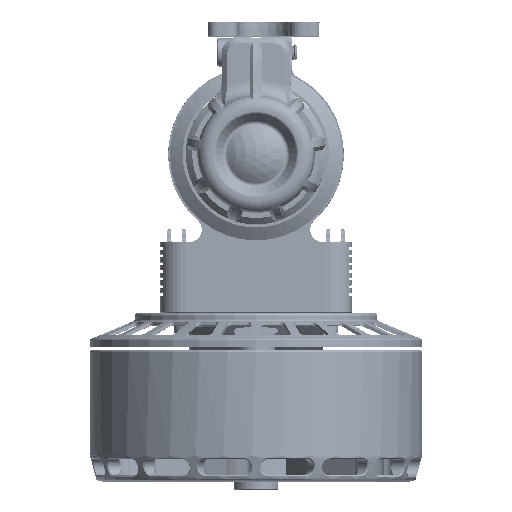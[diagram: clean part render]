
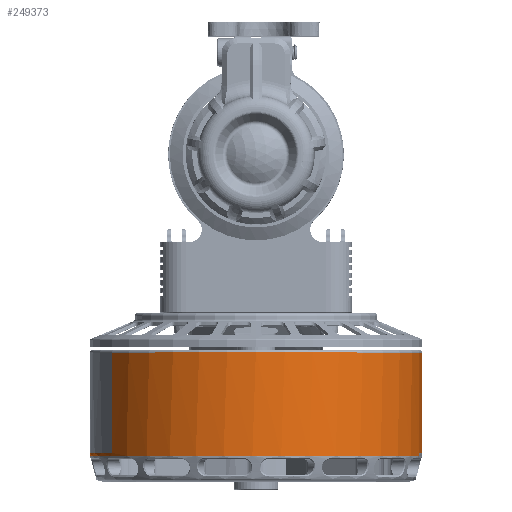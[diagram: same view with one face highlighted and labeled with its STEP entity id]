
A CAD part, top view. The second image highlights one B-rep face of the part: STEP entity #249373.
In plain terms, the highlighted cylindrical face has radius 52 mm (diameter 104 mm), a partial arc.
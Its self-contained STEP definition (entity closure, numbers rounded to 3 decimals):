
#82107=CARTESIAN_POINT('',(0.,-67.,83.6));
#82108=DIRECTION('',(0.,-1.,0.));
#82109=DIRECTION('',(0.981,0.,0.195));
#82110=AXIS2_PLACEMENT_3D('',#82107,#82108,#82109);
#96565=DIRECTION('',(0.,-1.,0.));
#96566=VECTOR('',#96565,1.);
#96567=CARTESIAN_POINT('',(-51.001,-66.,73.455));
#96568=LINE('',#96567,#96566);
#96569=CARTESIAN_POINT('',(0.,-66.,83.6));
#96570=DIRECTION('',(0.,1.,0.));
#96571=DIRECTION('',(-0.981,0.,
-0.195));
#96572=AXIS2_PLACEMENT_3D('',#96569,#96570,#96571);
#96574=DIRECTION('',(0.,1.,0.));
#96575=VECTOR('',#96574,31.4);
#96576=CARTESIAN_POINT('',(45.064,-66.,57.653));
#96577=LINE('',#96576,#96575);
#98775=DIRECTION('',(0.,-1.,0.));
#98776=VECTOR('',#98775,1.);
#98777=CARTESIAN_POINT('',(51.001,-66.,93.745));
#98778=LINE('',#98777,#98776);
#98779=CARTESIAN_POINT('',(0.,-66.,83.6));
#98780=DIRECTION('',(0.,-1.,0.));
#98781=DIRECTION('',(0.867,0.,-0.499));
#98782=AXIS2_PLACEMENT_3D('',#98779,#98780,#98781);
#98784=DIRECTION('',(0.,1.,0.));
#98785=VECTOR('',#98784,31.4);
#98786=CARTESIAN_POINT('',(-45.064,-66.,109.547));
#98787=LINE('',#98786,#98785);
#98803=CARTESIAN_POINT('',(0.,-34.6,83.6));
#98804=DIRECTION('',(0.,1.,0.));
#98805=DIRECTION('',(-0.867,0.,0.499));
#98806=AXIS2_PLACEMENT_3D('',#98803,#98804,#98805);
#116115=CARTESIAN_POINT('',(45.064,-34.6,57.653));
#116117=VERTEX_POINT('',#116115);
#116152=CARTESIAN_POINT('',(-45.064,-34.6,109.547));
#116153=VERTEX_POINT('',#116152);
#116230=CARTESIAN_POINT('',(51.001,-67.,93.745));
#116232=VERTEX_POINT('',#116230);
#116844=CARTESIAN_POINT('',(-51.001,-67.,73.455));
#116845=VERTEX_POINT('',#116844);
#118731=CARTESIAN_POINT('',(-51.001,-66.,73.455));
#118732=CARTESIAN_POINT('',(-45.064,-66.,109.547));
#118733=VERTEX_POINT('',#118731);
#118734=VERTEX_POINT('',#118732);
#119074=CARTESIAN_POINT('',(45.064,-66.,57.653));
#119075=CARTESIAN_POINT('',(51.001,-66.,93.745));
#119076=VERTEX_POINT('',#119074);
#119077=VERTEX_POINT('',#119075);
#249351=CARTESIAN_POINT('',(0.,-34.7,83.6));
#249352=DIRECTION('',(0.,-1.,0.));
#249353=DIRECTION('',(-0.867,0.,
0.499));
#249354=AXIS2_PLACEMENT_3D('',#249351,#249352,#249353);
#249355=CYLINDRICAL_SURFACE('',#249354,52.);
#249357=ORIENTED_EDGE('',*,*,#249356,.T.);
#249359=ORIENTED_EDGE('',*,*,#249358,.T.);
#249360=ORIENTED_EDGE('',*,*,#234518,.T.);
#249362=ORIENTED_EDGE('',*,*,#249361,.F.);
#249364=ORIENTED_EDGE('',*,*,#249363,.T.);
#249366=ORIENTED_EDGE('',*,*,#249365,.T.);
#249368=ORIENTED_EDGE('',*,*,#249367,.T.);
#249370=ORIENTED_EDGE('',*,*,#249369,.F.);
#249371=EDGE_LOOP('',(#249357,#249359,#249360,#249362,#249364,#249366,#249368,
#249370));
#249372=FACE_OUTER_BOUND('',#249371,.F.);
#82111=CIRCLE('',#82110,52.);
#96573=CIRCLE('',#96572,52.);
#98783=CIRCLE('',#98782,52.);
#98807=CIRCLE('',#98806,52.);
#234518=EDGE_CURVE('',#116232,#116845,#82111,.T.);
#249356=EDGE_CURVE('',#119076,#119077,#98783,.T.);
#249358=EDGE_CURVE('',#119077,#116232,#98778,.T.);
#249361=EDGE_CURVE('',#118733,#116845,#96568,.T.);
#249363=EDGE_CURVE('',#118733,#118734,#96573,.T.);
#249365=EDGE_CURVE('',#118734,#116153,#98787,.T.);
#249367=EDGE_CURVE('',#116153,#116117,#98807,.T.);
#249369=EDGE_CURVE('',#119076,#116117,#96577,.T.);
#249373=ADVANCED_FACE('',(#249372),#249355,.T.);
